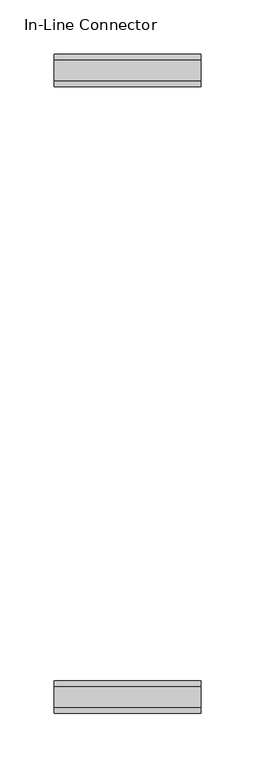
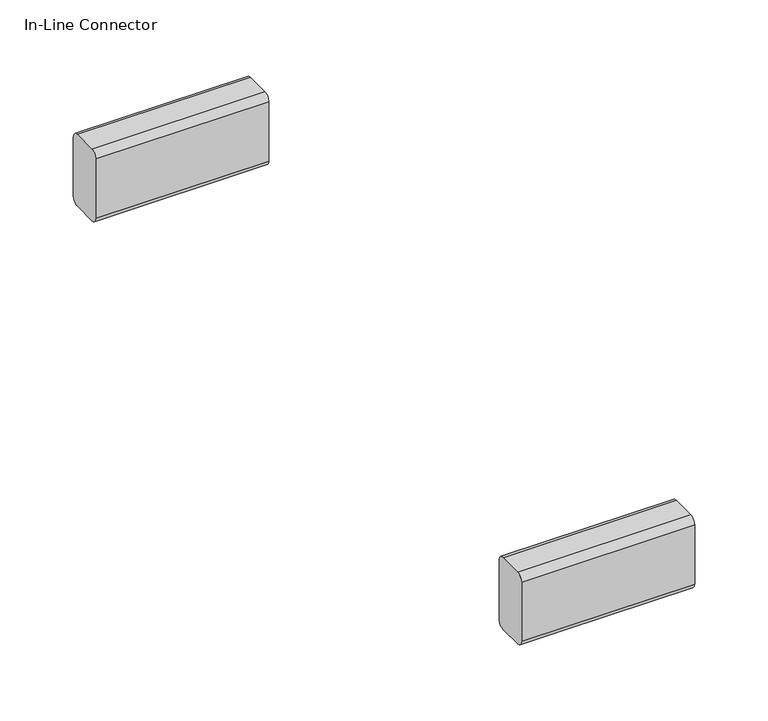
"""IFC4 building model written with IfcOpenShell, lengths in millimetres: furniture geometry, Coalesse_AM_Ensemble_Seat_EndOption : In-Line Connector."""

from ifc_helpers import new_model, si_unit, point, frame, frame_2d, origin, place, context, project, spatial, polyline, circle_curve, trimmed, segment, composite_curve, outline, extrude, source, transform, mapped, element, save


def in_line_connector_33bfc2a5(model_context):
    return source(origin(), model_context, "Body", "SweptSolid", [
        extrude(outline(composite_curve([segment(polyline([(108.865872, 130.0907271), (128.9876575, 130.0907271)]), True, "CONTINUOUS"), segment(trimmed(circle_curve(frame_2d((128.9876575, 125.0107271)), 5.08), [point((128.9876575, 130.0907271))], [point((134.0676575, 125.0107271))], False, "CARTESIAN"), True, "CONTINUOUS"), segment(polyline([(134.0676575, 125.0107271), (134.0676575, 75.5475648)]), True, "CONTINUOUS"), segment(trimmed(circle_curve(frame_2d((129.0980339, 75.5475648)), 4.9696236), [point((134.0676575, 75.5475648))], [point((129.0980339, 70.5779413))], False, "CARTESIAN"), True, "CONTINUOUS"), segment(polyline([(129.0980339, 70.5779413), (108.865872, 70.5779413)]), True, "CONTINUOUS"), segment(trimmed(circle_curve(frame_2d((108.865872, 75.6579413)), 5.08), [point((108.865872, 70.5779413))], [point((103.785872, 75.6579413))], False, "CARTESIAN"), True, "CONTINUOUS"), segment(polyline([(103.785872, 75.6579413), (103.785872, 125.0107271)]), True, "CONTINUOUS"), segment(trimmed(circle_curve(frame_2d((108.865872, 125.0107271)), 5.08), [point((103.785872, 125.0107271))], [point((108.865872, 130.0907271))], False, "CARTESIAN"), True, "CONTINUOUS")], self_intersect=False)), frame((0.0, 0.0, 0.0), z_axis=(1.0, 0.0, 0.0), x_axis=(0.0, 1.0, 0.0)), (0.0, 0.0, 1.0), 135.9853557),
        extrude(outline(composite_curve([segment(polyline([(688.6735965, 130.0907271), (708.795382, 130.0907271)]), True, "CONTINUOUS"), segment(trimmed(circle_curve(frame_2d((708.795382, 125.0107271)), 5.08), [point((708.795382, 130.0907271))], [point((713.875382, 125.0107271))], False, "CARTESIAN"), True, "CONTINUOUS"), segment(polyline([(713.875382, 125.0107271), (713.875382, 75.5475648)]), True, "CONTINUOUS"), segment(trimmed(circle_curve(frame_2d((708.9057584, 75.5475648)), 4.9696236), [point((713.875382, 75.5475648))], [point((708.9057584, 70.5779413))], False, "CARTESIAN"), True, "CONTINUOUS"), segment(polyline([(708.9057584, 70.5779413), (688.6735965, 70.5779413)]), True, "CONTINUOUS"), segment(trimmed(circle_curve(frame_2d((688.6735965, 75.6579413)), 5.08), [point((688.6735965, 70.5779413))], [point((683.5935965, 75.6579413))], False, "CARTESIAN"), True, "CONTINUOUS"), segment(polyline([(683.5935965, 75.6579413), (683.5935965, 125.0107271)]), True, "CONTINUOUS"), segment(trimmed(circle_curve(frame_2d((688.6735965, 125.0107271)), 5.08), [point((683.5935965, 125.0107271))], [point((688.6735965, 130.0907271))], False, "CARTESIAN"), True, "CONTINUOUS")], self_intersect=False)), frame((0.0, 0.0, 0.0), z_axis=(1.0, 0.0, 0.0), x_axis=(0.0, 1.0, 0.0)), (0.0, 0.0, 1.0), 135.9853557),
    ])


if __name__ == "__main__":
    model = new_model("IFC4")
    model_context = context("Model", 3, world=origin())
    ifc_project = project(units=[si_unit("LENGTHUNIT", "METRE", prefix="MILLI")], contexts=[model_context])
    site = spatial("IfcSite", under=ifc_project)
    building = spatial("IfcBuilding", under=site)
    placement = place(None, origin())
    in_line_connector_shape = in_line_connector_33bfc2a5(model_context)
    element("IfcFurniture", 1, ObjectType="Coalesse_AM_Ensemble_Seat_EndOption : In-Line Connector", at=placement, inside=building, context=model_context, shape_type="MappedRepresentation", body=[
        mapped(in_line_connector_shape, transform((0.0, 0.0, 0.0), x_axis=(1.0, 0.0, 0.0), y_axis=(0.0, 1.0, 0.0), z_axis=(0.0, 0.0, 1.0))),
    ])
    save(model, "model.ifc")
